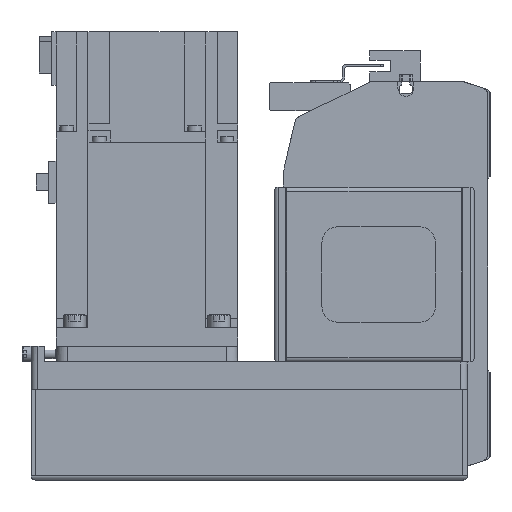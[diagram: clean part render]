
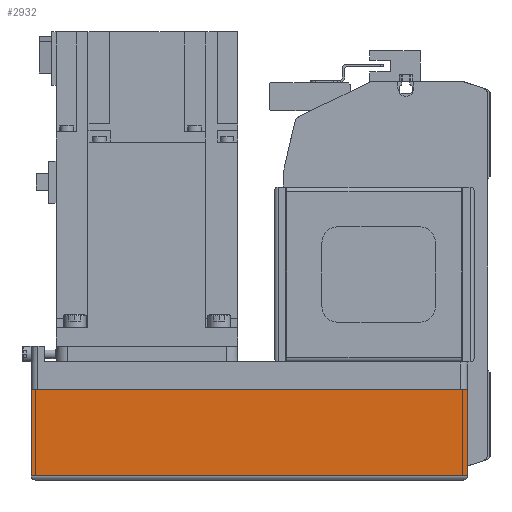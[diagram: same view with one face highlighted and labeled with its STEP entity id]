
A CAD part, left-side view. The second image highlights one B-rep face of the part: STEP entity #2932.
In plain terms, the highlighted planar face has unit normal (-1, 0, 0) as drawn and (0, -1, 0) by its records, which use the part's own axes.
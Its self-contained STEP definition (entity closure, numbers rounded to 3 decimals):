
#2932 = ADVANCED_FACE( '', ( #6072 ), #6073, .T. );
#6072 = FACE_OUTER_BOUND( '', #9256, .T. );
#6073 = PLANE( '', #9257 );
#9256 = EDGE_LOOP( '', ( #17585, #17586, #17587, #17588 ) );
#9257 = AXIS2_PLACEMENT_3D( '', #17589, #17590, #17591 );
#17585 = ORIENTED_EDGE( '', *, *, #21142, .F. );
#17586 = ORIENTED_EDGE( '', *, *, #19004, .F. );
#17587 = ORIENTED_EDGE( '', *, *, #19150, .T. );
#17588 = ORIENTED_EDGE( '', *, *, #21537, .T. );
#17589 = CARTESIAN_POINT( '', ( -192., -40., -12.1 ) );
#17590 = DIRECTION( '', ( 0., -1., 0. ) );
#17591 = DIRECTION( '', ( 0., 0., -1. ) );
#19004 = EDGE_CURVE( '', #22982, #22983, #22984, .T. );
#19150 = EDGE_CURVE( '', #22982, #22699, #23240, .T. );
#21142 = EDGE_CURVE( '', #22983, #25963, #26141, .T. );
#21537 = EDGE_CURVE( '', #22699, #25963, #26591, .T. );
#22699 = VERTEX_POINT( '', #28218 );
#22982 = VERTEX_POINT( '', #28625 );
#22983 = VERTEX_POINT( '', #28626 );
#22984 = LINE( '', #28627, #28628 );
#23240 = LINE( '', #28954, #28955 );
#25963 = VERTEX_POINT( '', #32950 );
#26141 = LINE( '', #33196, #33197 );
#26591 = LINE( '', #33869, #33870 );
#28218 = CARTESIAN_POINT( '', ( -192., -40., -50. ) );
#28625 = CARTESIAN_POINT( '', ( -192., -40., -12.1 ) );
#28626 = CARTESIAN_POINT( '', ( 0., -40., -12.1 ) );
#28627 = CARTESIAN_POINT( '', ( -192., -40., -12.1 ) );
#28628 = VECTOR( '', #35004, 1000. );
#28954 = CARTESIAN_POINT( '', ( -192., -40., -12.1 ) );
#28955 = VECTOR( '', #35240, 1000. );
#32950 = CARTESIAN_POINT( '', ( 0., -40., -50. ) );
#33196 = CARTESIAN_POINT( '', ( 0., -40., -12.1 ) );
#33197 = VECTOR( '', #37560, 1000. );
#33869 = CARTESIAN_POINT( '', ( -192., -40., -50. ) );
#33870 = VECTOR( '', #37857, 1000. );
#35004 = DIRECTION( '', ( 1., 0., 0. ) );
#35240 = DIRECTION( '', ( 0., 0., -1. ) );
#37560 = DIRECTION( '', ( 0., 0., -1. ) );
#37857 = DIRECTION( '', ( 1., 0., 0. ) );
